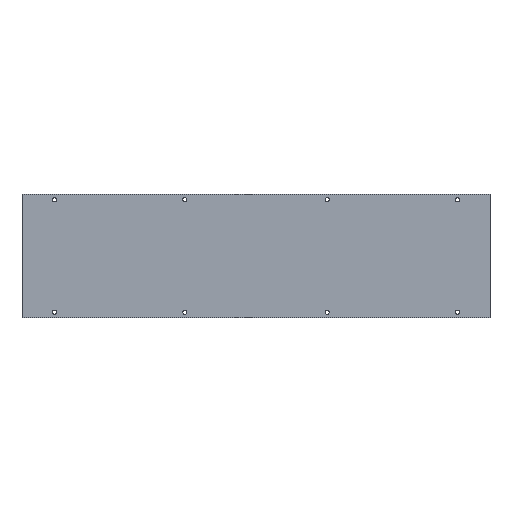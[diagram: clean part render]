
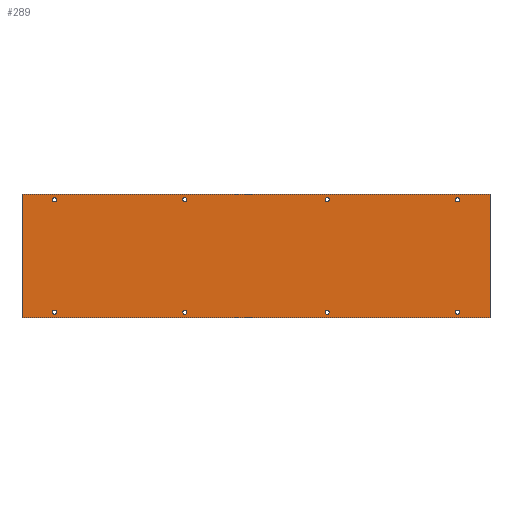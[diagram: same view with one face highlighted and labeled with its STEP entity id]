
A CAD part, top view. The second image highlights one B-rep face of the part: STEP entity #289.
In plain terms, the highlighted planar face has unit normal (0, 0, 1).
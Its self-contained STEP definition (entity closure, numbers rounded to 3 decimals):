
#15=FACE_BOUND('',#64,.T.);
#16=FACE_BOUND('',#65,.T.);
#17=FACE_BOUND('',#66,.T.);
#18=FACE_BOUND('',#67,.T.);
#19=FACE_BOUND('',#68,.T.);
#20=FACE_BOUND('',#69,.T.);
#21=FACE_BOUND('',#70,.T.);
#22=FACE_BOUND('',#71,.T.);
#35=PLANE('',#333);
#49=FACE_OUTER_BOUND('',#63,.T.);
#63=EDGE_LOOP('',(#245,#246,#247,#248));
#64=EDGE_LOOP('',(#249));
#65=EDGE_LOOP('',(#250));
#66=EDGE_LOOP('',(#251));
#67=EDGE_LOOP('',(#252));
#68=EDGE_LOOP('',(#253));
#69=EDGE_LOOP('',(#254));
#70=EDGE_LOOP('',(#255));
#71=EDGE_LOOP('',(#256));
#91=LINE('',#473,#111);
#94=LINE('',#479,#114);
#97=LINE('',#485,#117);
#100=LINE('',#489,#120);
#111=VECTOR('',#397,10.);
#114=VECTOR('',#402,10.);
#117=VECTOR('',#407,10.);
#120=VECTOR('',#412,10.);
#121=CIRCLE('',#306,2.5);
#123=CIRCLE('',#309,2.5);
#125=CIRCLE('',#312,2.5);
#127=CIRCLE('',#315,2.5);
#129=CIRCLE('',#318,2.5);
#131=CIRCLE('',#321,2.5);
#133=CIRCLE('',#324,2.5);
#135=CIRCLE('',#327,2.5);
#137=VERTEX_POINT('',#419);
#139=VERTEX_POINT('',#425);
#141=VERTEX_POINT('',#431);
#143=VERTEX_POINT('',#437);
#145=VERTEX_POINT('',#443);
#147=VERTEX_POINT('',#449);
#149=VERTEX_POINT('',#455);
#151=VERTEX_POINT('',#461);
#155=VERTEX_POINT('',#470);
#156=VERTEX_POINT('',#472);
#158=VERTEX_POINT('',#478);
#160=VERTEX_POINT('',#484);
#161=EDGE_CURVE('',#137,#137,#121,.T.);
#164=EDGE_CURVE('',#139,#139,#123,.T.);
#167=EDGE_CURVE('',#141,#141,#125,.T.);
#170=EDGE_CURVE('',#143,#143,#127,.T.);
#173=EDGE_CURVE('',#145,#145,#129,.T.);
#176=EDGE_CURVE('',#147,#147,#131,.T.);
#179=EDGE_CURVE('',#149,#149,#133,.T.);
#182=EDGE_CURVE('',#151,#151,#135,.T.);
#187=EDGE_CURVE('',#156,#155,#91,.T.);
#190=EDGE_CURVE('',#158,#156,#94,.T.);
#193=EDGE_CURVE('',#160,#158,#97,.T.);
#196=EDGE_CURVE('',#155,#160,#100,.T.);
#245=ORIENTED_EDGE('',*,*,#196,.T.);
#246=ORIENTED_EDGE('',*,*,#193,.T.);
#247=ORIENTED_EDGE('',*,*,#190,.T.);
#248=ORIENTED_EDGE('',*,*,#187,.T.);
#249=ORIENTED_EDGE('',*,*,#182,.T.);
#250=ORIENTED_EDGE('',*,*,#179,.T.);
#251=ORIENTED_EDGE('',*,*,#176,.T.);
#252=ORIENTED_EDGE('',*,*,#173,.T.);
#253=ORIENTED_EDGE('',*,*,#170,.T.);
#254=ORIENTED_EDGE('',*,*,#167,.T.);
#255=ORIENTED_EDGE('',*,*,#164,.T.);
#256=ORIENTED_EDGE('',*,*,#161,.T.);
#289=ADVANCED_FACE('',(#49,#15,#16,#17,#18,#19,#20,#21,#22),#35,.T.);
#306=AXIS2_PLACEMENT_3D('',#420,#339,#340);
#309=AXIS2_PLACEMENT_3D('',#426,#346,#347);
#312=AXIS2_PLACEMENT_3D('',#432,#353,#354);
#315=AXIS2_PLACEMENT_3D('',#438,#360,#361);
#318=AXIS2_PLACEMENT_3D('',#444,#367,#368);
#321=AXIS2_PLACEMENT_3D('',#450,#374,#375);
#324=AXIS2_PLACEMENT_3D('',#456,#381,#382);
#327=AXIS2_PLACEMENT_3D('',#462,#388,#389);
#333=AXIS2_PLACEMENT_3D('',#490,#413,#414);
#339=DIRECTION('center_axis',(0.,0.,-1.));
#340=DIRECTION('ref_axis',(1.,0.,0.));
#346=DIRECTION('center_axis',(0.,0.,-1.));
#347=DIRECTION('ref_axis',(1.,0.,0.));
#353=DIRECTION('center_axis',(0.,0.,-1.));
#354=DIRECTION('ref_axis',(1.,0.,0.));
#360=DIRECTION('center_axis',(0.,0.,-1.));
#361=DIRECTION('ref_axis',(1.,0.,0.));
#367=DIRECTION('center_axis',(0.,0.,-1.));
#368=DIRECTION('ref_axis',(1.,0.,0.));
#374=DIRECTION('center_axis',(0.,0.,-1.));
#375=DIRECTION('ref_axis',(1.,0.,0.));
#381=DIRECTION('center_axis',(0.,0.,-1.));
#382=DIRECTION('ref_axis',(1.,0.,0.));
#388=DIRECTION('center_axis',(0.,0.,-1.));
#389=DIRECTION('ref_axis',(1.,0.,0.));
#397=DIRECTION('',(-1.,0.,0.));
#402=DIRECTION('',(0.,1.,0.));
#407=DIRECTION('',(1.,0.,0.));
#412=DIRECTION('',(0.,-1.,0.));
#413=DIRECTION('center_axis',(0.,0.,1.));
#414=DIRECTION('ref_axis',(1.,0.,0.));
#419=CARTESIAN_POINT('',(37.5,6.425,6.35));
#420=CARTESIAN_POINT('Origin',(40.,6.425,6.35));
#425=CARTESIAN_POINT('',(532.5,144.775,6.35));
#426=CARTESIAN_POINT('Origin',(535.,144.775,6.35));
#431=CARTESIAN_POINT('',(37.5,144.775,6.35));
#432=CARTESIAN_POINT('Origin',(40.,144.775,6.35));
#437=CARTESIAN_POINT('',(372.5,6.425,6.35));
#438=CARTESIAN_POINT('Origin',(375.,6.425,6.35));
#443=CARTESIAN_POINT('',(197.5,6.425,6.35));
#444=CARTESIAN_POINT('Origin',(200.,6.425,6.35));
#449=CARTESIAN_POINT('',(532.5,6.425,6.35));
#450=CARTESIAN_POINT('Origin',(535.,6.425,6.35));
#455=CARTESIAN_POINT('',(197.5,144.775,6.35));
#456=CARTESIAN_POINT('Origin',(200.,144.775,6.35));
#461=CARTESIAN_POINT('',(372.5,144.775,6.35));
#462=CARTESIAN_POINT('Origin',(375.,144.775,6.35));
#470=CARTESIAN_POINT('',(0.,151.2,6.35));
#472=CARTESIAN_POINT('',(575.,151.2,6.35));
#473=CARTESIAN_POINT('',(575.,151.2,6.35));
#478=CARTESIAN_POINT('',(575.,0.,6.35));
#479=CARTESIAN_POINT('',(575.,0.,6.35));
#484=CARTESIAN_POINT('',(0.,0.,6.35));
#485=CARTESIAN_POINT('',(0.,0.,6.35));
#489=CARTESIAN_POINT('',(0.,151.2,6.35));
#490=CARTESIAN_POINT('Origin',(287.5,75.6,6.35));
